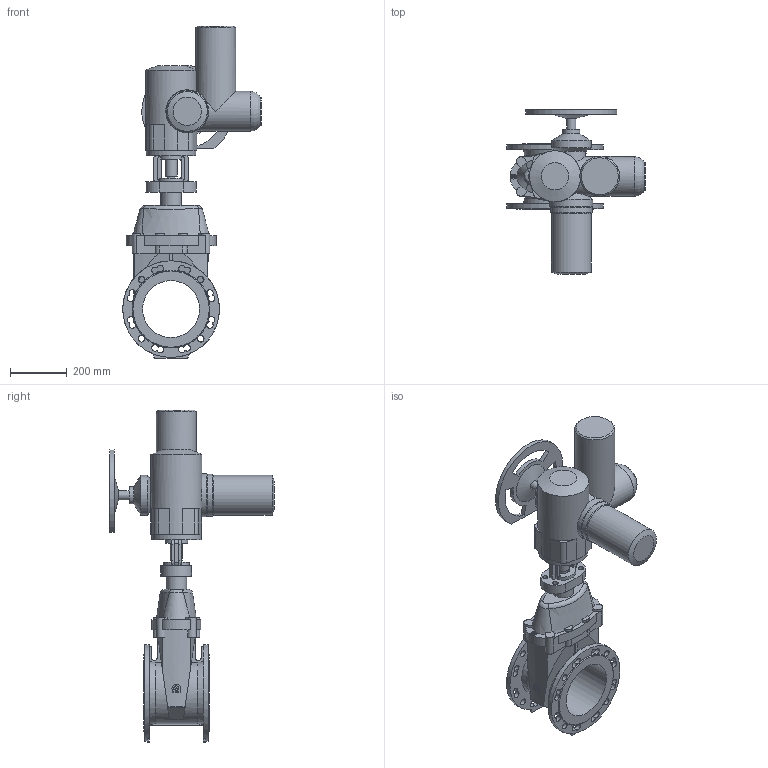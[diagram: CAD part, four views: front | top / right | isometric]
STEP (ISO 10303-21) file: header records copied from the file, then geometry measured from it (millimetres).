
FILE_DESCRIPTION(('STEP AP203'), '1');
FILE_NAME('青溻桄赅 47GV.M DN200 + MT903.A30', '', ('UNSPECIFIED'), ('UNSPECIFIED'), 'ASCON STEP Converter 1.6', 'ASCON Math Kernel', '');
FILE_SCHEMA(('CONFIG_CONTROL_DESIGN'));
Length unit declared in the file: millimetre
Bounding box: 487 x 578 x 1167.5 mm (x, y, z)
Volume: 34158840 mm3; surface area: 1680122.1 mm2
Topology: 1 solids, 1 shells, 364 faces, 1053 edges, 697 vertices
Faces by surface type: cylinder 169, plane 169, cone 15, bspline 10, torus 1
Full cylindrical faces by diameter (mm): 14 x4, 18 x8, 23 x8, 26 x2, 32 x1, 42 x1, 43 x1, 46 x1, 60 x1, 72 x1, 90 x1, 100 x2, 140 x4, 147 x1, 151 x1, 175 x1, 200 x1, 340 x2
Entity records: 21242 total; most frequent: CARTESIAN_POINT 8754, ORIENTED_EDGE 2002, DIRECTION 1972, EDGE_CURVE 1001, AXIS2_PLACEMENT_3D 788, VERTEX_POINT 697, EDGE_LOOP 490, CIRCLE 433
